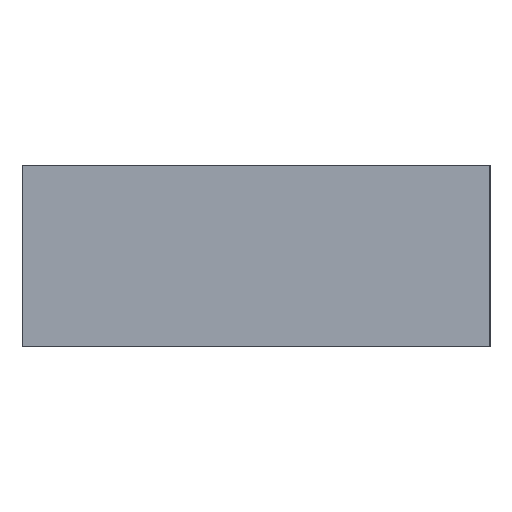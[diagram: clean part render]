
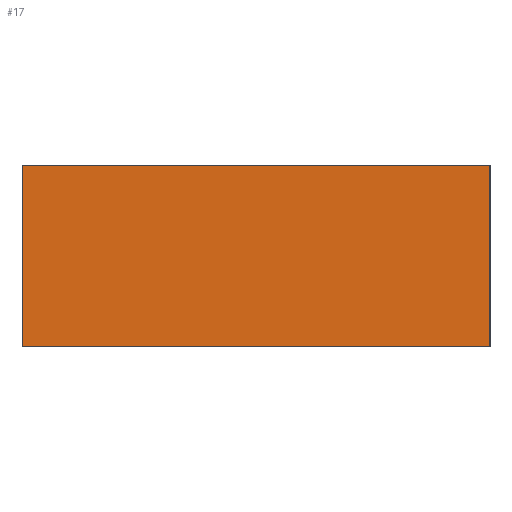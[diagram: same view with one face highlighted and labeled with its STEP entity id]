
A CAD part, left-side view. The second image highlights one B-rep face of the part: STEP entity #17.
In plain terms, the highlighted planar face has unit normal (-1, 0, 0).
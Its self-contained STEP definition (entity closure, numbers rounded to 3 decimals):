
#17 = ADVANCED_FACE('',(#18),#32,.F.);
#18 = FACE_BOUND('',#19,.F.);
#19 = EDGE_LOOP('',(#20,#55,#83,#111));
#20 = ORIENTED_EDGE('',*,*,#21,.F.);
#21 = EDGE_CURVE('',#22,#24,#26,.T.);
#22 = VERTEX_POINT('',#23);
#23 = CARTESIAN_POINT('',(-31.,-9.,0.));
#24 = VERTEX_POINT('',#25);
#25 = CARTESIAN_POINT('',(-31.,-9.,7.));
#26 = SURFACE_CURVE('',#27,(#31,#43),.PCURVE_S1.);
#27 = LINE('',#28,#29);
#28 = CARTESIAN_POINT('',(-31.,-9.,0.));
#29 = VECTOR('',#30,1.);
#30 = DIRECTION('',(0.,0.,1.));
#31 = PCURVE('',#32,#37);
#32 = PLANE('',#33);
#33 = AXIS2_PLACEMENT_3D('',#34,#35,#36);
#34 = CARTESIAN_POINT('',(-31.,-9.,0.));
#35 = DIRECTION('',(1.,0.,0.));
#36 = DIRECTION('',(0.,0.,1.));
#37 = DEFINITIONAL_REPRESENTATION('',(#38),#42);
#38 = LINE('',#39,#40);
#39 = CARTESIAN_POINT('',(0.,0.));
#40 = VECTOR('',#41,1.);
#41 = DIRECTION('',(1.,0.));
#42 = ( GEOMETRIC_REPRESENTATION_CONTEXT(2) 
PARAMETRIC_REPRESENTATION_CONTEXT() REPRESENTATION_CONTEXT('2D SPACE',''
  ) );
#43 = PCURVE('',#44,#49);
#44 = PLANE('',#45);
#45 = AXIS2_PLACEMENT_3D('',#46,#47,#48);
#46 = CARTESIAN_POINT('',(-31.,-9.,0.));
#47 = DIRECTION('',(0.,1.,0.));
#48 = DIRECTION('',(0.,0.,1.));
#49 = DEFINITIONAL_REPRESENTATION('',(#50),#54);
#50 = LINE('',#51,#52);
#51 = CARTESIAN_POINT('',(0.,0.));
#52 = VECTOR('',#53,1.);
#53 = DIRECTION('',(1.,0.));
#54 = ( GEOMETRIC_REPRESENTATION_CONTEXT(2) 
PARAMETRIC_REPRESENTATION_CONTEXT() REPRESENTATION_CONTEXT('2D SPACE',''
  ) );
#55 = ORIENTED_EDGE('',*,*,#56,.T.);
#56 = EDGE_CURVE('',#22,#57,#59,.T.);
#57 = VERTEX_POINT('',#58);
#58 = CARTESIAN_POINT('',(-31.,9.,0.));
#59 = SURFACE_CURVE('',#60,(#64,#71),.PCURVE_S1.);
#60 = LINE('',#61,#62);
#61 = CARTESIAN_POINT('',(-31.,-9.,0.));
#62 = VECTOR('',#63,1.);
#63 = DIRECTION('',(0.,1.,0.));
#64 = PCURVE('',#32,#65);
#65 = DEFINITIONAL_REPRESENTATION('',(#66),#70);
#66 = LINE('',#67,#68);
#67 = CARTESIAN_POINT('',(0.,0.));
#68 = VECTOR('',#69,1.);
#69 = DIRECTION('',(0.,-1.));
#70 = ( GEOMETRIC_REPRESENTATION_CONTEXT(2) 
PARAMETRIC_REPRESENTATION_CONTEXT() REPRESENTATION_CONTEXT('2D SPACE',''
  ) );
#71 = PCURVE('',#72,#77);
#72 = PLANE('',#73);
#73 = AXIS2_PLACEMENT_3D('',#74,#75,#76);
#74 = CARTESIAN_POINT('',(-31.,-9.,0.));
#75 = DIRECTION('',(0.,0.,1.));
#76 = DIRECTION('',(1.,0.,0.));
#77 = DEFINITIONAL_REPRESENTATION('',(#78),#82);
#78 = LINE('',#79,#80);
#79 = CARTESIAN_POINT('',(0.,0.));
#80 = VECTOR('',#81,1.);
#81 = DIRECTION('',(0.,1.));
#82 = ( GEOMETRIC_REPRESENTATION_CONTEXT(2) 
PARAMETRIC_REPRESENTATION_CONTEXT() REPRESENTATION_CONTEXT('2D SPACE',''
  ) );
#83 = ORIENTED_EDGE('',*,*,#84,.T.);
#84 = EDGE_CURVE('',#57,#85,#87,.T.);
#85 = VERTEX_POINT('',#86);
#86 = CARTESIAN_POINT('',(-31.,9.,7.));
#87 = SURFACE_CURVE('',#88,(#92,#99),.PCURVE_S1.);
#88 = LINE('',#89,#90);
#89 = CARTESIAN_POINT('',(-31.,9.,0.));
#90 = VECTOR('',#91,1.);
#91 = DIRECTION('',(0.,0.,1.));
#92 = PCURVE('',#32,#93);
#93 = DEFINITIONAL_REPRESENTATION('',(#94),#98);
#94 = LINE('',#95,#96);
#95 = CARTESIAN_POINT('',(0.,-18.));
#96 = VECTOR('',#97,1.);
#97 = DIRECTION('',(1.,0.));
#98 = ( GEOMETRIC_REPRESENTATION_CONTEXT(2) 
PARAMETRIC_REPRESENTATION_CONTEXT() REPRESENTATION_CONTEXT('2D SPACE',''
  ) );
#99 = PCURVE('',#100,#105);
#100 = PLANE('',#101);
#101 = AXIS2_PLACEMENT_3D('',#102,#103,#104);
#102 = CARTESIAN_POINT('',(-31.,9.,0.));
#103 = DIRECTION('',(0.,1.,0.));
#104 = DIRECTION('',(0.,0.,1.));
#105 = DEFINITIONAL_REPRESENTATION('',(#106),#110);
#106 = LINE('',#107,#108);
#107 = CARTESIAN_POINT('',(0.,0.));
#108 = VECTOR('',#109,1.);
#109 = DIRECTION('',(1.,0.));
#110 = ( GEOMETRIC_REPRESENTATION_CONTEXT(2) 
PARAMETRIC_REPRESENTATION_CONTEXT() REPRESENTATION_CONTEXT('2D SPACE',''
  ) );
#111 = ORIENTED_EDGE('',*,*,#112,.F.);
#112 = EDGE_CURVE('',#24,#85,#113,.T.);
#113 = SURFACE_CURVE('',#114,(#118,#125),.PCURVE_S1.);
#114 = LINE('',#115,#116);
#115 = CARTESIAN_POINT('',(-31.,-9.,7.));
#116 = VECTOR('',#117,1.);
#117 = DIRECTION('',(0.,1.,0.));
#118 = PCURVE('',#32,#119);
#119 = DEFINITIONAL_REPRESENTATION('',(#120),#124);
#120 = LINE('',#121,#122);
#121 = CARTESIAN_POINT('',(7.,0.));
#122 = VECTOR('',#123,1.);
#123 = DIRECTION('',(0.,-1.));
#124 = ( GEOMETRIC_REPRESENTATION_CONTEXT(2) 
PARAMETRIC_REPRESENTATION_CONTEXT() REPRESENTATION_CONTEXT('2D SPACE',''
  ) );
#125 = PCURVE('',#126,#131);
#126 = PLANE('',#127);
#127 = AXIS2_PLACEMENT_3D('',#128,#129,#130);
#128 = CARTESIAN_POINT('',(-31.,-9.,7.));
#129 = DIRECTION('',(0.,0.,1.));
#130 = DIRECTION('',(1.,0.,0.));
#131 = DEFINITIONAL_REPRESENTATION('',(#132),#136);
#132 = LINE('',#133,#134);
#133 = CARTESIAN_POINT('',(0.,0.));
#134 = VECTOR('',#135,1.);
#135 = DIRECTION('',(0.,1.));
#136 = ( GEOMETRIC_REPRESENTATION_CONTEXT(2) 
PARAMETRIC_REPRESENTATION_CONTEXT() REPRESENTATION_CONTEXT('2D SPACE',''
  ) );
